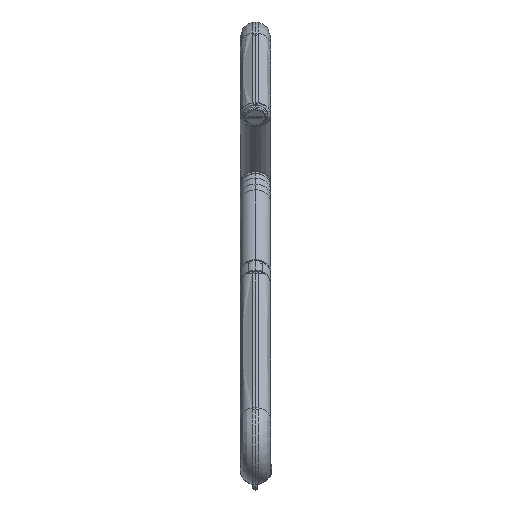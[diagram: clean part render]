
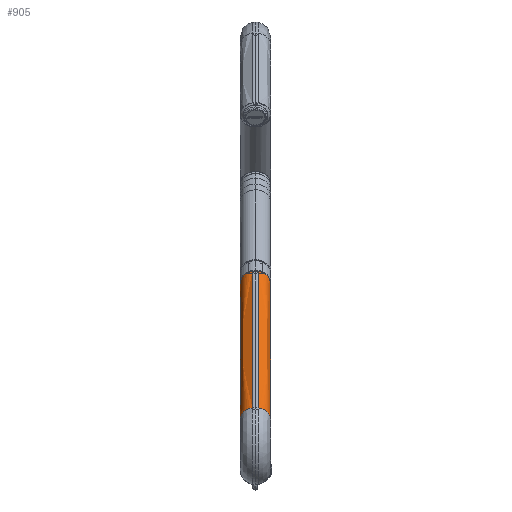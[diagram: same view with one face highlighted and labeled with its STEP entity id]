
A CAD part, left-side view. The second image highlights one B-rep face of the part: STEP entity #905.
In plain terms, the highlighted free-form (B-spline) face has degree [3, 2] with [4, 9] control points.
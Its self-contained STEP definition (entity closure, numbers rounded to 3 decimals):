
#905=ADVANCED_FACE('',(#1394),#6596,.T.);
#1394=FACE_OUTER_BOUND('',#1912,.T.);
#1912=EDGE_LOOP('',(#3863,#3864,#3865,#3866,#3867));
#3863=ORIENTED_EDGE('',*,*,#5356,.T.);
#3864=ORIENTED_EDGE('',*,*,#5363,.T.);
#3865=ORIENTED_EDGE('',*,*,#5372,.T.);
#3866=ORIENTED_EDGE('',*,*,#5357,.T.);
#3867=ORIENTED_EDGE('',*,*,#5362,.F.);
#5356=EDGE_CURVE('',#6270,#6273,#7301,.T.);
#5357=EDGE_CURVE('',#6274,#6271,#7302,.T.);
#5362=EDGE_CURVE('',#6270,#6271,#7307,.T.);
#5363=EDGE_CURVE('',#6273,#6277,#7308,.T.);
#5372=EDGE_CURVE('',#6277,#6274,#7314,.T.);
#6270=VERTEX_POINT('',#20458);
#6271=VERTEX_POINT('',#20459);
#6273=VERTEX_POINT('',#20461);
#6274=VERTEX_POINT('',#20462);
#6277=VERTEX_POINT('',#20465);
#6596=(
BOUNDED_SURFACE()
B_SPLINE_SURFACE(3,2,((#20236,#20237,#20238,#20239,#20240,#20241,#20242,
#20243,#20244),(#20245,#20246,#20247,#20248,#20249,#20250,#20251,#20252,
#20253),(#20254,#20255,#20256,#20257,#20258,#20259,#20260,#20261,#20262),
(#20263,#20264,#20265,#20266,#20267,#20268,#20269,#20270,#20271)),.UNSPECIFIED.,
.F.,.F.,.F.)
B_SPLINE_SURFACE_WITH_KNOTS((4,4),(3,2,2,2,3),(0.,72.344),(1.072,
7.854,15.708,23.562,30.344),.UNSPECIFIED.)
GEOMETRIC_REPRESENTATION_ITEM()
RATIONAL_B_SPLINE_SURFACE(((0.931,0.747,1.,0.707,
1.,0.707,1.,0.747,0.931),(0.931,
0.747,1.,0.707,1.,0.707,1.,0.747,
0.931),(0.931,0.747,1.,0.707,
1.,0.707,1.,0.747,0.931),(0.931,
0.747,1.,0.707,1.,0.707,1.,0.747,
0.931)))
REPRESENTATION_ITEM('')
SURFACE()
);
#7301=(
BOUNDED_CURVE()
B_SPLINE_CURVE(3,(#20029,#20030,#20031,#20032),.UNSPECIFIED.,.F.,.F.)
B_SPLINE_CURVE_WITH_KNOTS((4,4),(0.,72.344),.UNSPECIFIED.)
CURVE()
GEOMETRIC_REPRESENTATION_ITEM()
RATIONAL_B_SPLINE_CURVE((1.,1.,1.,1.))
REPRESENTATION_ITEM('')
);
#7302=(
BOUNDED_CURVE()
B_SPLINE_CURVE(3,(#20033,#20034,#20035,#20036),.UNSPECIFIED.,.F.,.F.)
B_SPLINE_CURVE_WITH_KNOTS((4,4),(-72.344,0.),.UNSPECIFIED.)
CURVE()
GEOMETRIC_REPRESENTATION_ITEM()
RATIONAL_B_SPLINE_CURVE((1.,1.,1.,1.))
REPRESENTATION_ITEM('')
);
#7307=(
BOUNDED_CURVE()
B_SPLINE_CURVE(2,(#20056,#20057,#20058,#20059,#20060,#20061,#20062,#20063,
#20064),.UNSPECIFIED.,.F.,.F.)
B_SPLINE_CURVE_WITH_KNOTS((3,2,2,2,3),(1.072,7.854,
15.708,23.562,30.344),.UNSPECIFIED.)
CURVE()
GEOMETRIC_REPRESENTATION_ITEM()
RATIONAL_B_SPLINE_CURVE((1.,0.774,1.,0.707,1.,0.707,
1.,0.774,1.))
REPRESENTATION_ITEM('')
);
#7308=(
BOUNDED_CURVE()
B_SPLINE_CURVE(2,(#20065,#20066,#20067,#20068,#20069,#20070,#20071),.UNSPECIFIED.,
.F.,.F.)
B_SPLINE_CURVE_WITH_KNOTS((3,2,2,3),(1.029,7.54,15.079,
15.079),.UNSPECIFIED.)
CURVE()
GEOMETRIC_REPRESENTATION_ITEM()
RATIONAL_B_SPLINE_CURVE((1.,0.774,1.,0.707,
1.,1.,1.))
REPRESENTATION_ITEM('')
);
#7314=(
BOUNDED_CURVE()
B_SPLINE_CURVE(2,(#20132,#20133,#20134,#20135,#20136),.UNSPECIFIED.,.F.,
.F.)
B_SPLINE_CURVE_WITH_KNOTS((3,2,3),(15.079,22.619,29.13),
.UNSPECIFIED.)
CURVE()
GEOMETRIC_REPRESENTATION_ITEM()
RATIONAL_B_SPLINE_CURVE((1.,0.707,1.,0.774,
1.))
REPRESENTATION_ITEM('')
);
#20029=CARTESIAN_POINT('',(-390.664,0.995,5.923));
#20030=CARTESIAN_POINT('',(-371.631,0.995,20.732));
#20031=CARTESIAN_POINT('',(-352.599,0.995,35.54));
#20032=CARTESIAN_POINT('',(-333.566,0.995,50.348));
#20033=CARTESIAN_POINT('',(-333.566,-0.995,50.348));
#20034=CARTESIAN_POINT('',(-352.599,-0.995,35.54));
#20035=CARTESIAN_POINT('',(-371.631,-0.995,20.731));
#20036=CARTESIAN_POINT('',(-390.664,-0.995,5.923));
#20056=CARTESIAN_POINT('',(-390.664,0.995,5.923));
#20057=CARTESIAN_POINT('',(-390.164,5.,5.281));
#20058=CARTESIAN_POINT('',(-387.655,5.,2.056));
#20059=CARTESIAN_POINT('',(-384.584,5.,-1.89));
#20060=CARTESIAN_POINT('',(-384.584,0.,-1.89));
#20061=CARTESIAN_POINT('',(-384.584,-5.,-1.89));
#20062=CARTESIAN_POINT('',(-387.655,-5.,2.056));
#20063=CARTESIAN_POINT('',(-390.164,-5.,5.281));
#20064=CARTESIAN_POINT('',(-390.664,-0.995,5.923));
#20065=CARTESIAN_POINT('',(-333.566,0.995,50.348));
#20066=CARTESIAN_POINT('',(-333.067,5.,49.706));
#20067=CARTESIAN_POINT('',(-330.557,5.,46.481));
#20068=CARTESIAN_POINT('',(-327.487,5.,42.535));
#20069=CARTESIAN_POINT('',(-327.487,0.,42.535));
#20070=CARTESIAN_POINT('',(-327.487,0.,42.535));
#20071=CARTESIAN_POINT('',(-327.487,0.,42.535));
#20132=CARTESIAN_POINT('',(-327.487,0.,42.535));
#20133=CARTESIAN_POINT('',(-327.487,-5.,42.535));
#20134=CARTESIAN_POINT('',(-330.557,-5.,46.481));
#20135=CARTESIAN_POINT('',(-333.067,-5.,49.706));
#20136=CARTESIAN_POINT('',(-333.566,-0.995,50.348));
#20236=CARTESIAN_POINT('',(-390.664,0.995,5.923));
#20237=CARTESIAN_POINT('',(-390.164,5.,5.281));
#20238=CARTESIAN_POINT('',(-387.655,5.,2.056));
#20239=CARTESIAN_POINT('',(-384.584,5.,-1.89));
#20240=CARTESIAN_POINT('',(-384.584,0.,-1.89));
#20241=CARTESIAN_POINT('',(-384.584,-5.,-1.89));
#20242=CARTESIAN_POINT('',(-387.655,-5.,2.056));
#20243=CARTESIAN_POINT('',(-390.164,-5.,5.281));
#20244=CARTESIAN_POINT('',(-390.664,-0.995,5.923));
#20245=CARTESIAN_POINT('',(-371.631,0.995,20.732));
#20246=CARTESIAN_POINT('',(-371.132,5.,20.09));
#20247=CARTESIAN_POINT('',(-368.622,5.,16.864));
#20248=CARTESIAN_POINT('',(-365.552,5.,12.918));
#20249=CARTESIAN_POINT('',(-365.552,0.,12.918));
#20250=CARTESIAN_POINT('',(-365.552,-5.,12.918));
#20251=CARTESIAN_POINT('',(-368.622,-5.,16.864));
#20252=CARTESIAN_POINT('',(-371.132,-5.,20.09));
#20253=CARTESIAN_POINT('',(-371.631,-0.995,20.732));
#20254=CARTESIAN_POINT('',(-352.599,0.995,35.54));
#20255=CARTESIAN_POINT('',(-352.099,5.,34.898));
#20256=CARTESIAN_POINT('',(-349.59,5.,31.673));
#20257=CARTESIAN_POINT('',(-346.519,5.,27.726));
#20258=CARTESIAN_POINT('',(-346.519,0.,27.726));
#20259=CARTESIAN_POINT('',(-346.519,-5.,27.726));
#20260=CARTESIAN_POINT('',(-349.59,-5.,31.673));
#20261=CARTESIAN_POINT('',(-352.099,-5.,34.898));
#20262=CARTESIAN_POINT('',(-352.599,-0.995,35.54));
#20263=CARTESIAN_POINT('',(-333.566,0.995,50.348));
#20264=CARTESIAN_POINT('',(-333.067,5.,49.706));
#20265=CARTESIAN_POINT('',(-330.557,5.,46.481));
#20266=CARTESIAN_POINT('',(-327.487,5.,42.535));
#20267=CARTESIAN_POINT('',(-327.487,0.,42.535));
#20268=CARTESIAN_POINT('',(-327.487,-5.,42.535));
#20269=CARTESIAN_POINT('',(-330.557,-5.,46.481));
#20270=CARTESIAN_POINT('',(-333.067,-5.,49.706));
#20271=CARTESIAN_POINT('',(-333.566,-0.995,50.348));
#20458=CARTESIAN_POINT('',(-390.664,0.995,5.923));
#20459=CARTESIAN_POINT('',(-390.664,-0.995,5.923));
#20461=CARTESIAN_POINT('',(-333.566,0.995,50.348));
#20462=CARTESIAN_POINT('',(-333.566,-0.995,50.348));
#20465=CARTESIAN_POINT('',(-327.487,0.,42.535));
